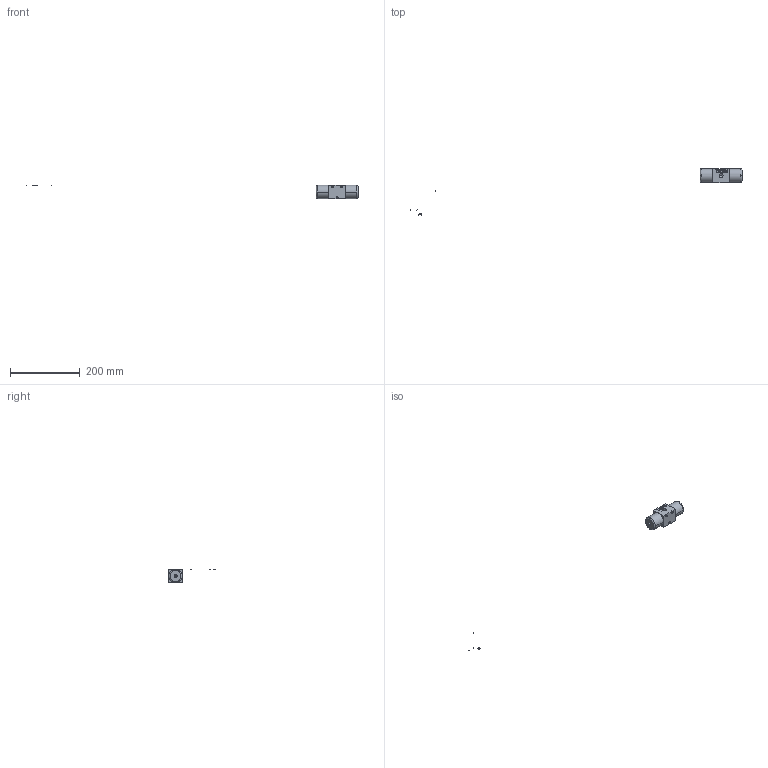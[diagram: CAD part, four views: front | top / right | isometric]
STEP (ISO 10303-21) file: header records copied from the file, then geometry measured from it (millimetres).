
FILE_DESCRIPTION((''),'2;1');
FILE_NAME('7060006_3D.stp','2017-06-01T10:08:08',(''),(''),'Mechanical Desktop 2008','Mechanical Desktop 2008',', , ');
FILE_SCHEMA(('AUTOMOTIVE_DESIGN { 1 2 10303 214 1 1 1 1 }'));
Length unit declared in the file: millimetre
Products named in the file (18): 7060006_3D_1; PART1; SQUADRATURA-A4; A$C25DB1468; TIMBROA4COMPL; *X19; *X18; *X17; *X16; *X15; *X14; *X13; *X12; OR; *X10; *X9; *X8; *X7
Assembly tree (1 placements, depth 2):
  7060006_3D_1
    PART1
  SQUADRATURA-A4
  A$C25DB1468
  TIMBROA4COMPL
  *X19
Bounding box: 950.97 x 134.2 x 40 mm (x, y, z)
Volume: 152546.6 mm3; surface area: 23838.6 mm2
Topology: 1 solids, 1 shells, 141 faces, 1119 edges, 1707 vertices
Faces by surface type: plane 70, bspline 35, cylinder 24, cone 8, torus 4
Entity records: 10746 total; most frequent: CARTESIAN_POINT 2671, DIRECTION 1595, VECTOR 843, LINE 843, ORIENTED_EDGE 692, STYLED_ITEM 685, TRIMMED_CURVE 650, AXIS2_PLACEMENT_3D 376
